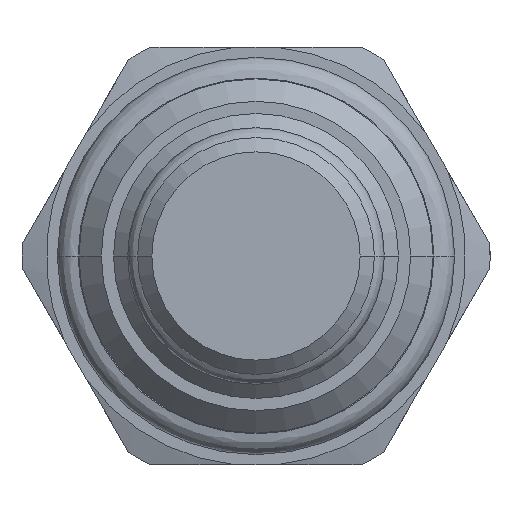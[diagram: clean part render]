
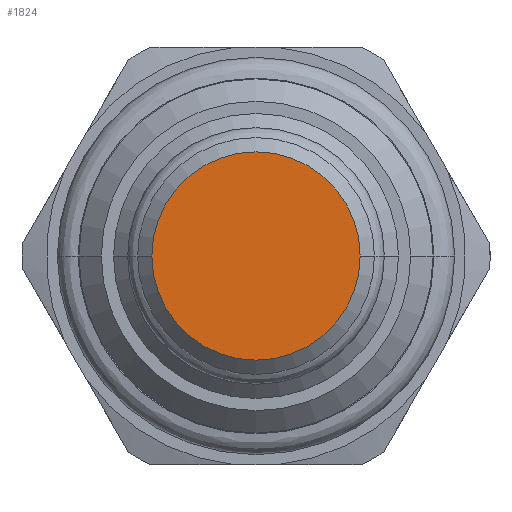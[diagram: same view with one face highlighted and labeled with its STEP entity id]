
A CAD part, front view. The second image highlights one B-rep face of the part: STEP entity #1824.
In plain terms, the highlighted planar face has unit normal (0, -1, 0).
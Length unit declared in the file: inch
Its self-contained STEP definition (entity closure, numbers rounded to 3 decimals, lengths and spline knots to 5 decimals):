
#1=CARTESIAN_POINT('',(0.,-1.095,0.));
#2=DIRECTION('',(0.,1.,0.));
#3=DIRECTION('',(1.,0.,0.));
#4=AXIS2_PLACEMENT_3D('',#1,#2,#3);
#11=CARTESIAN_POINT('',(0.,-1.095,0.));
#12=DIRECTION('',(0.,1.,0.));
#13=DIRECTION('',(-1.,0.,0.));
#14=AXIS2_PLACEMENT_3D('',#11,#12,#13);
#1714=CARTESIAN_POINT('',(0.2185,-1.095,0.));
#1715=CARTESIAN_POINT('',(-0.2185,-1.095,0.));
#1716=VERTEX_POINT('',#1714);
#1717=VERTEX_POINT('',#1715);
#1814=CARTESIAN_POINT('',(0.,-1.095,0.));
#1815=DIRECTION('',(0.,1.,0.));
#1816=DIRECTION('',(1.,0.,0.));
#1817=AXIS2_PLACEMENT_3D('',#1814,#1815,#1816);
#1818=PLANE('',#1817);
#1819=ORIENTED_EDGE('',*,*,#1803,.T.);
#1821=ORIENTED_EDGE('',*,*,#1820,.T.);
#1822=EDGE_LOOP('',(#1819,#1821));
#1823=FACE_OUTER_BOUND('',#1822,.F.);
#1824=ADVANCED_FACE('',(#1823),#1818,.F.);
#5=CIRCLE('',#4,0.2185);
#15=CIRCLE('',#14,0.2185);
#1803=EDGE_CURVE('',#1716,#1717,#5,.T.);
#1820=EDGE_CURVE('',#1717,#1716,#15,.T.);
